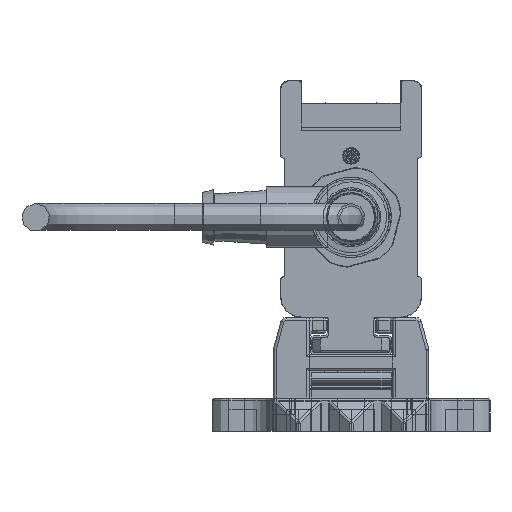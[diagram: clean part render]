
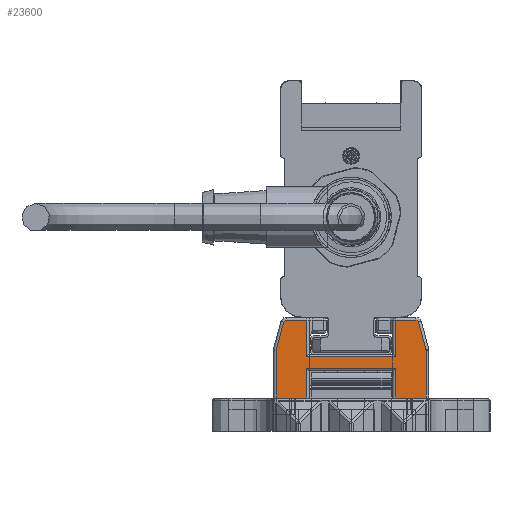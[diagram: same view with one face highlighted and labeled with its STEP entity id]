
A CAD part, left-side view. The second image highlights one B-rep face of the part: STEP entity #23600.
In plain terms, the highlighted planar face has unit normal (-1, 0, 0).
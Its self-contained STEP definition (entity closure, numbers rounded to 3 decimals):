
#23600=ADVANCED_FACE('', (#23610), #23620, .T.);
#189050=AXIS2_PLACEMENT_3D('Ax2Pl3d', #189060, #189070, #189080);
#189290=AXIS2_PLACEMENT_3D('Ax2Pl3d', #189300, #189310, #189320);
#194170=AXIS2_PLACEMENT_3D('Ax2Pl3d', #194180, #194190, #194200);
#199250=AXIS2_PLACEMENT_3D('Ax2Pl3d', #199260, #199270, #199280);
#208930=AXIS2_PLACEMENT_3D('Ax2Pl3d', #208940, #208950, #208960);
#844600=CARTESIAN_POINT('', (-747.669,-5846.345,
331.37));
#189060=CARTESIAN_POINT('HicPkt', (-747.669,-5845.379,
331.111));
#844610=CARTESIAN_POINT('', (-747.669,-5846.379,331.111)
);
#844620=CARTESIAN_POINT('', (-747.669,-5845.037,
336.255));
#844640=CARTESIAN_POINT('', (-747.669,-5845.037,
336.255));
#844670=CARTESIAN_POINT('', (-747.669,-5844.554,
336.625));
#189300=CARTESIAN_POINT('HicPkt', (-747.669,-5844.554,
336.125));
#844890=CARTESIAN_POINT('', (-747.669,-5846.379,322.625)
);
#844900=CARTESIAN_POINT('', (-747.669,-5840.881,322.625)
);
#844910=CARTESIAN_POINT('', (-747.669,-5840.881,322.625)
);
#844990=CARTESIAN_POINT('', (-747.669,-5824.881,322.625)
);
#845000=CARTESIAN_POINT('', (-747.669,-5819.383,322.625)
);
#845010=CARTESIAN_POINT('', (-747.669,-5819.383,322.625)
);
#194180=CARTESIAN_POINT('HicPkt', (-747.669,-5821.209,
336.125));
#847480=CARTESIAN_POINT('', (-747.669,-5820.726,
336.255));
#847490=CARTESIAN_POINT('', (-747.669,-5821.209,
336.625));
#847500=CARTESIAN_POINT('', (-747.669,-5840.881,
330.025));
#847510=CARTESIAN_POINT('', (-747.669,-5824.881,
330.025));
#847520=CARTESIAN_POINT('', (-747.669,-5840.881,
330.025));
#847680=CARTESIAN_POINT('', (-747.669,-5840.881,
328.005));
#847690=CARTESIAN_POINT('', (-747.669,-5824.881,
328.005));
#847700=CARTESIAN_POINT('', (-747.669,-5824.881,
328.005));
#847710=CARTESIAN_POINT('', (-747.669,-5840.881,
328.005));
#847730=CARTESIAN_POINT('', (-747.669,-5824.881,322.625)
);
#847740=CARTESIAN_POINT('', (-747.669,-5824.881,
330.025));
#847750=CARTESIAN_POINT('', (-747.669,-5824.881,
336.625));
#848600=CARTESIAN_POINT('', (-747.669,-5824.881,
336.625));
#848610=CARTESIAN_POINT('', (-747.669,-5820.726,
336.255));
#848620=CARTESIAN_POINT('', (-747.669,-5819.417,
331.37));
#848810=CARTESIAN_POINT('', (-747.669,-5819.383,331.111)
);
#848820=CARTESIAN_POINT('', (-747.669,-5819.383,331.111)
);
#199260=CARTESIAN_POINT('HicPkt', (-747.669,-5820.383,
331.111));
#849630=CARTESIAN_POINT('', (-747.669,-5846.379,331.111)
);
#208940=CARTESIAN_POINT('HicPkt', (-747.669,-5844.554,
336.625));
#851430=CARTESIAN_POINT('', (-747.669,-5840.881,
336.625));
#851440=CARTESIAN_POINT('', (-747.669,-5840.881,
336.625));
#851450=CARTESIAN_POINT('', (-747.669,-5840.881,
336.625));
#981330=CIRCLE('Circle', #189050, 1.);
#981370=CIRCLE('Circle', #189290, 0.5);
#981950=CIRCLE('Circle', #194170, 0.5);
#982480=CIRCLE('Circle', #199250, 1.);
#189070=DIRECTION('Axis', (-1.,0.,
0.));
#189080=DIRECTION('RefDirection', (0.,
0.,-1.));
#1367870=DIRECTION('', (0.,0.259,
0.966));
#189310=DIRECTION('Axis', (-1.,0.,
0.));
#189320=DIRECTION('RefDirection', (0.,
0.,-1.));
#1367980=DIRECTION('', (0.,1.,0.));
#1368020=DIRECTION('', (0.,1.,0.));
#194190=DIRECTION('Axis', (1.,0.,
0.));
#194200=DIRECTION('RefDirection', (0.,
0.,-1.));
#1369210=DIRECTION('', (0.,-1.,0.));
#1369310=DIRECTION('', (0.,1.,0.));
#1369320=DIRECTION('', (0.,0.,1.));
#1369340=DIRECTION('', (0.,0.,-1.));
#1369350=DIRECTION('', (0.,0.,-1.));
#1369780=DIRECTION('', (0.,-1.,0.))
;
#1369790=DIRECTION('', (0.,-0.259,0.966));
#1369880=DIRECTION('', (0.,0.,1.));
#199270=DIRECTION('Axis', (1.,0.,
0.));
#199280=DIRECTION('RefDirection', (0.,
0.,-1.));
#1370250=DIRECTION('', (0.,0.,1.));
#208950=DIRECTION('Axis', (-1.,0.,
0.));
#208960=DIRECTION('RefDirection', (0.,
0.,-1.));
#1371090=DIRECTION('', (0.,1.,0.));
#1371100=DIRECTION('', (0.,0.,1.));
#1456860=EDGE_CURVE('', #1456870, #1456850, #981330, .T.);
#1456920=EDGE_CURVE('', #1456850, #1456900, #1456930, .T.);
#1456990=EDGE_CURVE('', #1456900, #1456980, #981370, .T.);
#1457440=EDGE_CURVE('', #1457430, #1457450, #1457460, .T.);
#1457600=EDGE_CURVE('', #1457590, #1457610, #1457620, .T.);
#1461960=EDGE_CURVE('', #1461970, #1461980, #981950, .T.);
#1462010=EDGE_CURVE('', #1462020, #1462030, #1462040, .T.);
#1462380=EDGE_CURVE('', #1462360, #1462390, #1462400, .T.);
#1462430=EDGE_CURVE('', #1457450, #1462360, #1462440, .T.);
#1462470=EDGE_CURVE('', #1462390, #1457590, #1462480, .T.);
#1462490=EDGE_CURVE('', #1462500, #1462020, #1462510, .T.);
#1464330=EDGE_CURVE('', #1461980, #1462500, #1464340, .T.);
#1464400=EDGE_CURVE('', #1464410, #1461970, #1464420, .T.);
#1464840=EDGE_CURVE('', #1457610, #1464850, #1464860, .T.);
#1464880=EDGE_CURVE('', #1464850, #1464410, #982480, .T.);
#1466590=EDGE_CURVE('', #1457430, #1456870, #1466600, .T.);
#1470400=EDGE_CURVE('', #1456980, #1470410, #1470420, .T.);
#1470430=EDGE_CURVE('', #1462030, #1470410, #1470440, .T.);
#1750440=EDGE_LOOP('Edge_loop', (#1750450,#1750460,#1750470,#1750480,
#1750490,#1750500,#1750510,#1750520,#1750530,#1750540,#1750550,
#1750560,#1750570,#1750580,#1750590,#1750600,#1750610,#1750620));
#23610=FACE_OUTER_BOUND('Face_outer_bound', #1750440, .T.);
#1456930=LINE('Line', #844640, #2017940);
#1457460=LINE('Line', #844900, #2018050);
#1457620=LINE('Line', #845000, #2018090);
#1462040=LINE('Line', #847500, #2019280);
#1462400=LINE('Line', #847690, #2019380);
#1462440=LINE('Line', #847710, #2019390);
#1462480=LINE('Line', #847730, #2019410);
#1462510=LINE('Line', #847740, #2019420);
#1464340=LINE('Line', #848600, #2019850);
#1464420=LINE('Line', #848610, #2019860);
#1464860=LINE('Line', #848810, #2019950);
#1466600=LINE('Line', #849630, #2020320);
#1470420=LINE('Line', #851430, #2021160);
#1470440=LINE('Line', #851450, #2021170);
#1750450=ORIENTED_EDGE('', *, *, #1470400, .T.);
#1750460=ORIENTED_EDGE('', *, *, #1470430, .F.);
#1750470=ORIENTED_EDGE('', *, *, #1462010, .F.);
#1750480=ORIENTED_EDGE('', *, *, #1462490, .F.);
#1750490=ORIENTED_EDGE('', *, *, #1464330, .F.);
#1750500=ORIENTED_EDGE('', *, *, #1461960, .F.);
#1750510=ORIENTED_EDGE('', *, *, #1464400, .F.);
#1750520=ORIENTED_EDGE('', *, *, #1464880, .F.);
#1750530=ORIENTED_EDGE('', *, *, #1464840, .F.);
#1750540=ORIENTED_EDGE('', *, *, #1457600, .F.);
#1750550=ORIENTED_EDGE('', *, *, #1462470, .F.);
#1750560=ORIENTED_EDGE('', *, *, #1462380, .F.);
#1750570=ORIENTED_EDGE('', *, *, #1462430, .F.);
#1750580=ORIENTED_EDGE('', *, *, #1457440, .F.);
#1750590=ORIENTED_EDGE('', *, *, #1466590, .T.);
#1750600=ORIENTED_EDGE('', *, *, #1456860, .T.);
#1750610=ORIENTED_EDGE('', *, *, #1456920, .T.);
#1750620=ORIENTED_EDGE('', *, *, #1456990, .T.);
#23620=PLANE('Plane', #208930);
#2017940=VECTOR('', #1367870, 5.057);
#2018050=VECTOR('', #1367980, 5.498);
#2018090=VECTOR('', #1368020, 5.498);
#2019280=VECTOR('', #1369210, 16.);
#2019380=VECTOR('', #1369310, 16.);
#2019390=VECTOR('', #1369320, 5.38);
#2019410=VECTOR('', #1369340, 5.38);
#2019420=VECTOR('', #1369350, 6.6);
#2019850=VECTOR('', #1369780, 3.672);
#2019860=VECTOR('', #1369790, 5.057);
#2019950=VECTOR('', #1369880, 8.486);
#2020320=VECTOR('', #1370250, 8.486);
#2021160=VECTOR('', #1371090, 3.672);
#2021170=VECTOR('', #1371100, 6.6);
#1456850=VERTEX_POINT('', #844600);
#1456870=VERTEX_POINT('', #844610);
#1456900=VERTEX_POINT('', #844620);
#1456980=VERTEX_POINT('', #844670);
#1457430=VERTEX_POINT('', #844890);
#1457450=VERTEX_POINT('', #844910);
#1457590=VERTEX_POINT('', #844990);
#1457610=VERTEX_POINT('', #845010);
#1461970=VERTEX_POINT('', #847480);
#1461980=VERTEX_POINT('', #847490);
#1462020=VERTEX_POINT('', #847510);
#1462030=VERTEX_POINT('', #847520);
#1462360=VERTEX_POINT('', #847680);
#1462390=VERTEX_POINT('', #847700);
#1462500=VERTEX_POINT('', #847750);
#1464410=VERTEX_POINT('', #848620);
#1464850=VERTEX_POINT('', #848820);
#1470410=VERTEX_POINT('', #851440);
